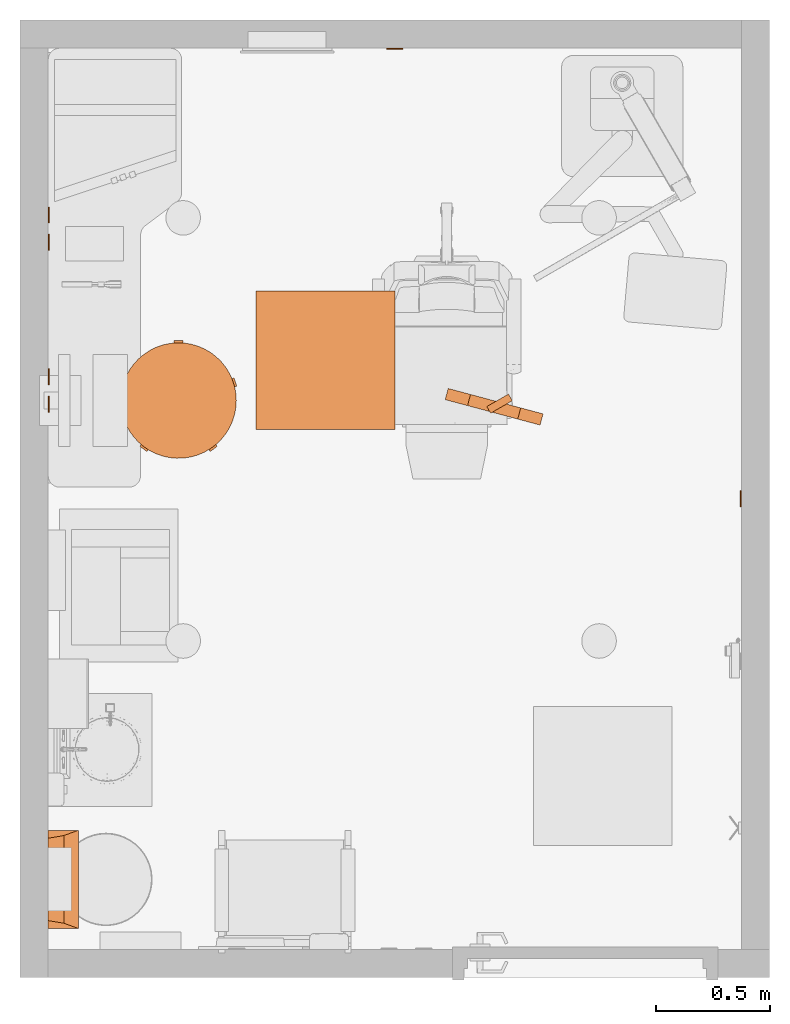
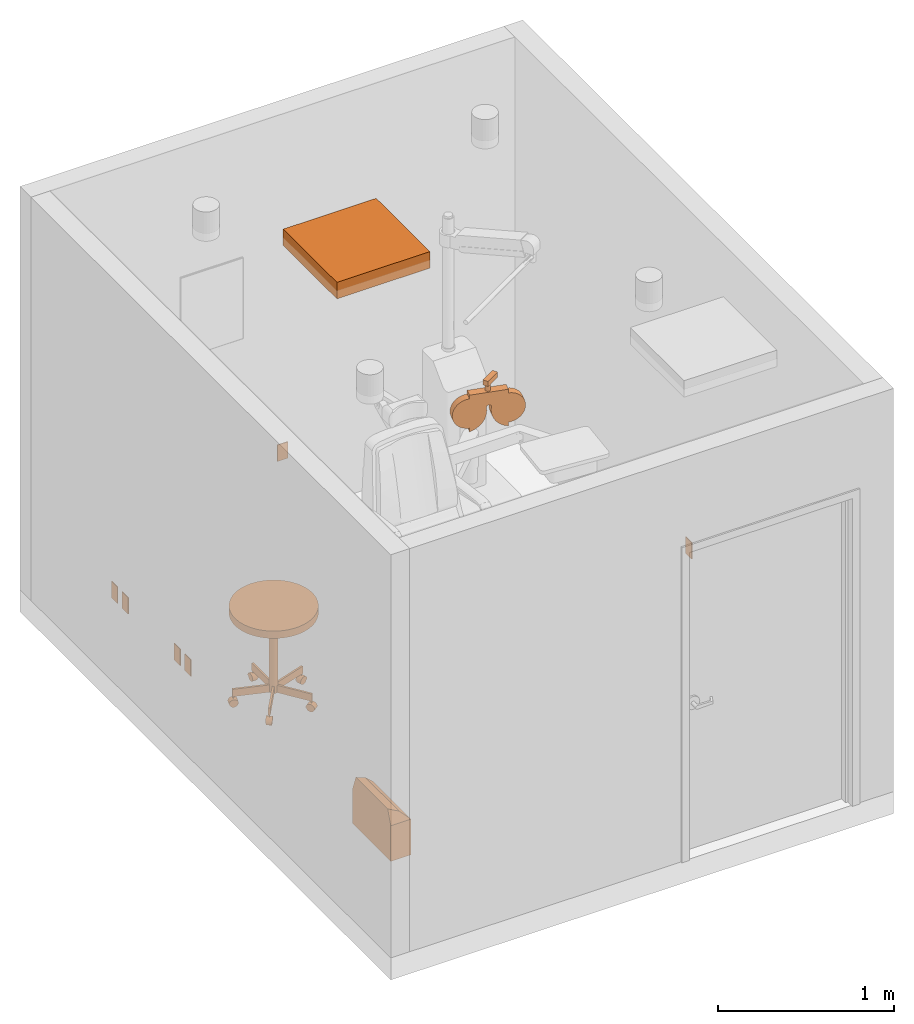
# One storey, part 6 of 11: 10 proxies.
"""IFC2X3 building model written with IfcOpenShell, lengths in feet."""

from ifc_helpers import new_model, entity, si_unit, converted_unit, derived_unit, direction, frame, frame_2d, origin, origin_2d_with_axis, place, context, subcontext, project, spatial, polyline, circle_curve, parameter, trimmed, segment, composite_curve, rectangle, circle, outline, extrude, faceted_brep, source, transform, mapped, material, material_list, type_object, type_shapes, element, save


model = new_model("IFC2X3")

# Units and contexts
model_context = context("Model", 3, precision=0.0001, world=origin(), true_north=direction((6.12303176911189e-17, 1.0)))
body_context = subcontext(model_context, "Body", "Model", "MODEL_VIEW")
ifc_project = project(units=[converted_unit("LENGTHUNIT", "FOOT", entity("IfcRatioMeasure", 0.3048), si_unit("LENGTHUNIT", "METRE"), dimensions=[1, 0, 0, 0, 0, 0, 0]), converted_unit("AREAUNIT", "SQUARE FOOT", entity("IfcRatioMeasure", 0.09290304), si_unit("AREAUNIT", "SQUARE_METRE"), dimensions=[2, 0, 0, 0, 0, 0, 0]), converted_unit("VOLUMEUNIT", "CUBIC FOOT", entity("IfcRatioMeasure", 0.028316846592), si_unit("VOLUMEUNIT", "CUBIC_METRE"), dimensions=[3, 0, 0, 0, 0, 0, 0]), converted_unit("PLANEANGLEUNIT", "DEGREE", entity("IfcRatioMeasure", 0.0174532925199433), si_unit("PLANEANGLEUNIT", "RADIAN"), dimensions=[0, 0, 0, 0, 0, 0, 0]), si_unit("MASSUNIT", "GRAM", prefix="KILO"), derived_unit("MASSDENSITYUNIT", [(si_unit("MASSUNIT", "GRAM", prefix="KILO"), 1), (si_unit("LENGTHUNIT", "METRE"), -3)]), si_unit("TIMEUNIT", "SECOND"), si_unit("FREQUENCYUNIT", "HERTZ"), si_unit("THERMODYNAMICTEMPERATUREUNIT", "DEGREE_CELSIUS"), derived_unit("THERMALTRANSMITTANCEUNIT", [(si_unit("MASSUNIT", "GRAM", prefix="KILO"), 1), (si_unit("THERMODYNAMICTEMPERATUREUNIT", "KELVIN"), -1), (si_unit("TIMEUNIT", "SECOND"), -3)]), derived_unit("VOLUMETRICFLOWRATEUNIT", [(si_unit("LENGTHUNIT", "METRE"), 3), (si_unit("TIMEUNIT", "SECOND"), -1)]), si_unit("ELECTRICCURRENTUNIT", "AMPERE"), si_unit("ELECTRICVOLTAGEUNIT", "VOLT"), si_unit("POWERUNIT", "WATT"), si_unit("FORCEUNIT", "NEWTON"), si_unit("ILLUMINANCEUNIT", "LUX"), si_unit("LUMINOUSFLUXUNIT", "LUMEN"), si_unit("LUMINOUSINTENSITYUNIT", "CANDELA"), derived_unit("USERDEFINED", [(si_unit("MASSUNIT", "GRAM", prefix="KILO"), -1), (si_unit("LENGTHUNIT", "METRE"), -2), (si_unit("TIMEUNIT", "SECOND"), 3), (si_unit("LUMINOUSFLUXUNIT", "LUMEN"), 1)]), derived_unit("LINEARVELOCITYUNIT", [(si_unit("LENGTHUNIT", "METRE"), 1), (si_unit("TIMEUNIT", "SECOND"), -1)]), si_unit("PRESSUREUNIT", "PASCAL"), derived_unit("USERDEFINED", [(si_unit("LENGTHUNIT", "METRE"), -2), (si_unit("MASSUNIT", "GRAM", prefix="KILO"), 1), (si_unit("TIMEUNIT", "SECOND"), -2)])], contexts=[model_context])

# Site, building, storey, space
site_placement = place(None, origin())
site = spatial("IfcSite", under=ifc_project, at=site_placement, Name="Default", CompositionType="ELEMENT")
building_placement = place(site_placement, origin())
building = spatial("IfcBuilding", under=site, at=building_placement, Name="EYE CLINIC:  OPTHALMOLOGY AND OPTOMETRY SERVICES (Ch. 233)", CompositionType="ELEMENT")
storey_placement = place(building_placement, origin())
storey = spatial("IfcBuildingStorey", under=building, at=storey_placement, Name="DATUM", CompositionType="ELEMENT", Elevation=0.0)
space_placement = place(storey_placement, origin())
space = spatial("IfcSpace", under=storey, at=space_placement, Name="(OPET2)", CompositionType="ELEMENT", InteriorOrExteriorSpace="INTERNAL")

# Proxies
building_element_proxy_type_1 = type_object("IfcBuildingElementProxyType", Name="24\" x 24\"", PredefinedType="NOTDEFINED")
shared_shape_1 = source(origin(), body_context, "Body", "SweptSolid", [
    extrude(rectangle(XDim=2.00000000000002, YDim=2.00000000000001, at=origin_2d_with_axis()), frame((0.0, 0.0, 8.0), z_axis=(0.0, 0.0, 1.0), x_axis=(0.0, 1.0, 0.0)), (0.0, 0.0, 1.0), 0.375),
])
type_shapes(building_element_proxy_type_1, [shared_shape_1])
proxy_1_placement = place(space_placement, frame((-31.8602308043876, 7.30762568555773, 1.0)))
element("IfcBuildingElementProxy", 1, at=proxy_1_placement, inside=space, type_object=building_element_proxy_type_1, Name="Supply Diffuser:24\" x 24\"", ObjectType="24\" x 24\"", context=body_context, shape_type="MappedRepresentation", body=[
    mapped(shared_shape_1, transform((0.0, 0.0, 0.0), scale=1.0)),
])
building_element_proxy_type_2 = type_object("IfcBuildingElementProxyType", Name="A5108 - Waste Disposal Unit, Sharps", PredefinedType="NOTDEFINED")
shared_shape_2 = source(origin(), body_context, "Body", "Brep", [
    faceted_brep([(1.41666666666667, 0.0, 0.0), (0.0, 0.0, 0.0), (0.0, 0.437500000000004, 0.0), (1.41666666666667, 0.437500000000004, 0.0), (1.41666666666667, 0.437500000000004, 0.810989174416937), (1.41666666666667, 0.00256679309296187, 0.810989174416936), (1.41666666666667, 0.0, 0.808422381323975), (0.0, 0.437500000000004, 0.810989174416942), (0.114290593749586, 0.437500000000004, 1.125), (1.30237607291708, 0.437500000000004, 1.125), (0.0, 0.0, 0.808422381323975), (0.0, 0.00256679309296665, 0.810989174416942), (1.34083118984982, 0.210923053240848, 1.01934543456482), (0.0758354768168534, 0.210923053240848, 1.01934543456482)], [[[0, 1, 2, 3]], [[0, 3, 4, 5, 6]], [[3, 2, 7, 8, 9, 4]], [[2, 1, 10, 11, 7]], [[1, 0, 6, 10]], [[10, 6, 5, 12, 13, 11]], [[12, 9, 8, 13]], [[5, 4, 9, 12]], [[8, 7, 11, 13]]]),
])
type_shapes(building_element_proxy_type_2, [shared_shape_2])
proxy_2_placement = place(storey_placement, frame((-35.4227308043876, -0.892098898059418, 1.625), z_axis=(0.0, 0.0, 1.0), x_axis=(0.0, 1.0, 0.0)))
element("IfcBuildingElementProxy", 2, at=proxy_2_placement, inside=storey, type_object=building_element_proxy_type_2, Name="A5108 - Waste Disposal Unit, Sharps:A5108 - Waste Disposal Unit, Sharps", ObjectType="A5108 - Waste Disposal Unit, Sharps", context=body_context, shape_type="MappedRepresentation", body=[
    mapped(shared_shape_2, transform((0.0, 0.0, 0.0), scale=1.0)),
])
ifc_material_1 = material(Name="Stool caster")
ifc_material_2 = material(Name="Stool metal")
ifc_material_3 = material(Name="Stool cushion")
ifc_material_list_1 = material_list([ifc_material_1, ifc_material_2, ifc_material_3])
ifc_material_list_2 = material_list([ifc_material_1, ifc_material_2, ifc_material_3])
building_element_proxy_type_3 = type_object("IfcBuildingElementProxyType", Name="F0340 - Stool, Self Adjusting", PredefinedType="NOTDEFINED", material=ifc_material_list_2)
shared_shape_3 = source(origin(), body_context, "Body", "SweptSolid", [
    extrude(circle(Radius=0.084518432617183, at=frame_2d((0.0, -1.38777878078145e-16), x_axis=(1.0, 0.0))), frame((0.717011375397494, 0.287734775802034, 0.0845184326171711), z_axis=(0.309016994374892, -0.951056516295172, 0.0), x_axis=(-0.951056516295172, -0.309016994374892, 0.0)), (0.0, 0.0, 1.0), 0.104166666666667),
    extrude(outline(composite_curve([segment(polyline([(-0.0925649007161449, 0.0), (0.0925649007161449, 0.0)]), True, "CONTINUOUS"), segment(trimmed(circle_curve(origin_2d_with_axis(), 0.0925649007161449), [parameter(2.03555499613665e-13)], [parameter(180.0)], True, "PARAMETER"), True, "CONTINUOUS")], self_intersect=False)), frame((0.752419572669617, 0.178759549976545, 0.0845184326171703), z_axis=(-0.309016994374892, 0.951056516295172, 0.0), x_axis=(-0.951056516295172, -0.309016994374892, 0.0)), (0.0, 0.0, 1.0), 0.125),
    extrude(circle(Radius=0.0115130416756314, at=frame_2d((7.9106571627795e-18, 1.14165428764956e-16), x_axis=(1.0, 0.0))), frame((0.73310678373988, 0.238198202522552, 0.177083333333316), z_axis=(0.0, 0.0, 1.0), x_axis=(0.309016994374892, -0.951056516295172, 0.0)), (0.0, 0.0, 1.0), 0.0442708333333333),
    extrude(rectangle(XDim=0.0416641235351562, YDim=0.7059128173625, at=frame_2d((1.38777878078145e-17, 0.0), x_axis=(1.0, 0.0))), frame((0.412570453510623, 0.134049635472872, 0.221354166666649), z_axis=(0.0, 0.0, 1.0), x_axis=(-0.309016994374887, 0.951056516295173, 0.0)), (0.0, 0.0, 1.0), 0.166666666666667),
    extrude(circle(Radius=0.084518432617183, at=frame_2d((0.0, -3.7470027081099e-16), x_axis=(1.0, 0.0))), frame((0.410948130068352, -0.654231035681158, 0.0845184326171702), z_axis=(0.809016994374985, 0.587785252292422, 0.0), x_axis=(-0.587785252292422, 0.809016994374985, 0.0)), (0.0, 0.0, 1.0), 0.104166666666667),
    extrude(outline(composite_curve([segment(polyline([(-0.0925649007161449, 0.0), (0.0925649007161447, 0.0)]), True, "CONTINUOUS"), segment(trimmed(circle_curve(origin_2d_with_axis(), 0.0925649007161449), [parameter(2.03555499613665e-13)], [parameter(180.0)], True, "PARAMETER"), True, "CONTINUOUS")], self_intersect=False)), frame((0.402520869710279, -0.660353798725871, 0.0845184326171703), z_axis=(0.809016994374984, 0.587785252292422, 0.0), x_axis=(-0.587785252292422, 0.809016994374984, 0.0)), (0.0, 0.0, 1.0), 0.125),
    extrude(circle(Radius=0.0115130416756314, at=origin_2d_with_axis()), frame((0.453082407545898, -0.623618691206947, 0.177083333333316), z_axis=(0.0, 0.0, 1.0), x_axis=(-0.809016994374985, -0.587785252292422, 0.0)), (0.0, 0.0, 1.0), 0.0442708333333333),
    extrude(rectangle(XDim=0.0416641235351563, YDim=0.705912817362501, at=frame_2d((0.0, -1.38777878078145e-16), x_axis=(1.0, 0.0))), frame((0.254980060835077, -0.350954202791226, 0.221354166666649), z_axis=(0.0, 0.0, 1.0), x_axis=(0.809016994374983, 0.587785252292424, 0.0)), (0.0, 0.0, 1.0), 0.166666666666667),
    extrude(circle(Radius=0.084518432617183, at=frame_2d((-3.2628636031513e-17, -1.38777878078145e-16), x_axis=(1.0, 0.0))), frame((-0.410948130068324, -0.654231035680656, 0.0845184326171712), z_axis=(-0.809016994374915, 0.587785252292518, 0.0), x_axis=(0.587785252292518, 0.809016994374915, 0.0)), (0.0, 0.0, 1.0), 0.104166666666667),
    extrude(outline(composite_curve([segment(trimmed(circle_curve(origin_2d_with_axis(), 0.0925649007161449), [parameter(180.0)], [parameter(360.0)], True, "PARAMETER"), True, "CONTINUOUS"), segment(polyline([(0.0925649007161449, 0.0), (-0.0925649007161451, 0.0)]), True, "CONTINUOUS")], self_intersect=False)), frame((-0.402520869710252, -0.66035379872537, 0.0845184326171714), z_axis=(-0.809016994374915, 0.587785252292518, 0.0), x_axis=(0.587785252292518, 0.809016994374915, 0.0)), (0.0, 0.0, 1.0), 0.125),
    extrude(circle(Radius=0.0115130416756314, at=frame_2d((-4.49094647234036e-17, -3.2628636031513e-17), x_axis=(1.0, 0.0))), frame((-0.453086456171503, -0.623615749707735, 0.177083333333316), z_axis=(0.0, 0.0, 1.0), x_axis=(-0.809016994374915, 0.587785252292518, 0.0)), (0.0, 0.0, 1.0), 0.0442708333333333),
    extrude(rectangle(XDim=0.0416641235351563, YDim=0.7059128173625, at=frame_2d((-4.16333634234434e-17, 5.55111512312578e-17), x_axis=(1.0, 0.0))), frame((-0.254984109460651, -0.350951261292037, 0.221354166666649), z_axis=(0.0, 0.0, 1.0), x_axis=(0.809016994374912, -0.587785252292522, 0.0)), (0.0, 0.0, 1.0), 0.166666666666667),
    extrude(circle(Radius=0.084518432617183, at=frame_2d((0.0, -1.38777878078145e-16), x_axis=(1.0, 0.0))), frame((-0.749200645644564, 0.188666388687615, 0.0845184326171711), z_axis=(0.309016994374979, 0.951056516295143, 0.0), x_axis=(0.951056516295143, -0.309016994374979, 0.0)), (0.0, 0.0, 1.0), 0.104166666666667),
    extrude(outline(composite_curve([segment(trimmed(circle_curve(origin_2d_with_axis(), 0.0925649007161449), [parameter(180.0)], [parameter(360.0)], True, "PARAMETER"), True, "CONTINUOUS"), segment(polyline([(0.0925649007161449, 0.0), (-0.0925649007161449, 0.0)]), True, "CONTINUOUS")], self_intersect=False)), frame((-0.752419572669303, 0.178759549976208, 0.0845184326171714), z_axis=(0.309016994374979, 0.951056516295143, 0.0), x_axis=(0.951056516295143, -0.309016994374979, 0.0)), (0.0, 0.0, 1.0), 0.125),
    extrude(circle(Radius=0.0115130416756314, at=frame_2d((7.91065716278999e-18, -1.14165428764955e-16), x_axis=(1.0, 0.0))), frame((-0.733105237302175, 0.238202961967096, 0.177083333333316), z_axis=(0.0, 0.0, 1.0), x_axis=(0.309016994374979, 0.951056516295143, 0.0)), (0.0, 0.0, 1.0), 0.0442708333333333),
    extrude(rectangle(XDim=0.0416641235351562, YDim=0.7059128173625, at=origin_2d_with_axis()), frame((-0.412568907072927, 0.134054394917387, 0.221354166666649), z_axis=(0.0, 0.0, 1.0), x_axis=(-0.309016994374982, -0.951056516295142, 0.0)), (0.0, 0.0, 1.0), 0.166666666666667),
    extrude(circle(Radius=0.084518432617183, at=frame_2d((-1.76415182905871e-31, -1.38777878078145e-16), x_axis=(1.0, 0.0))), frame((-0.0520833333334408, 0.770833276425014, 0.0845184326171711), z_axis=(1.0, 0.0, 0.0), x_axis=(0.0, -1.0, 0.0)), (0.0, 0.0, 1.0), 0.104166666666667),
    extrude(outline(composite_curve([segment(trimmed(circle_curve(origin_2d_with_axis(), 0.0925649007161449), [parameter(180.0)], [parameter(360.0)], True, "PARAMETER"), True, "CONTINUOUS"), segment(polyline([(0.0925649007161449, 0.0), (-0.0925649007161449, 0.0)]), True, "CONTINUOUS")], self_intersect=False)), frame((-0.0625000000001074, 0.770833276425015, 0.0845184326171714), z_axis=(1.0, 0.0, 0.0), x_axis=(0.0, -1.0, 0.0)), (0.0, 0.0, 1.0), 0.125),
    extrude(circle(Radius=0.0115130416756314, at=frame_2d((7.04731412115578e-19, 1.79171670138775e-32), x_axis=(1.0, 0.0))), frame((2.50218814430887e-06, 0.770833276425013, 0.177083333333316)), (0.0, 0.0, 1.0), 0.0442708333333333),
    extrude(rectangle(XDim=0.0416641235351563, YDim=0.7059128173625, at=frame_2d((3.46944695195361e-18, 5.55111512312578e-17), x_axis=(1.0, 0.0))), frame((2.50218813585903e-06, 0.433801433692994, 0.221354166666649), z_axis=(0.0, 0.0, 1.0), x_axis=(-1.0, 0.0, 0.0)), (0.0, 0.0, 1.0), 0.166666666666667),
    extrude(circle(Radius=0.0834863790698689, at=frame_2d((2.89333175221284e-18, -1.34875966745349e-16), x_axis=(1.0, 0.0))), frame((0.0, 0.0, 0.221354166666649)), (0.0, 0.0, 1.0), 1.77864583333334),
    extrude(circle(Radius=0.833333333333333, at=frame_2d((2.28760446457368e-17, -1.34628714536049e-15), x_axis=(1.0, 0.0))), frame((0.0, 0.0, 2.0)), (0.0, 0.0, 1.0), 0.166666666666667),
])
type_shapes(building_element_proxy_type_3, [shared_shape_3])
proxy_3_placement = place(space_placement, frame((-33.9795552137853, 6.7242923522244, 0.0)))
element("IfcBuildingElementProxy", 3, at=proxy_3_placement, inside=space, type_object=building_element_proxy_type_3, material=ifc_material_list_1, Name="F0340 - Stool, Self Adjusting:F0340 - Stool, Self Adjusting", ObjectType="F0340 - Stool, Self Adjusting", context=body_context, shape_type="MappedRepresentation", body=[
    mapped(shared_shape_3, transform((0.0, 0.0, 0.0), scale=1.0)),
])
building_element_proxy_type_4 = type_object("IfcBuildingElementProxyType", Name="M5599 - Phoropter", PredefinedType="NOTDEFINED")
shared_shape_4 = source(origin(), body_context, "Body", "SweptSolid", [
    extrude(rectangle(XDim=0.361077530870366, YDim=0.110392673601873, at=frame_2d((0.0, -2.4980018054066e-16), x_axis=(1.0, 0.0))), frame((1.21752463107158, 2.80100429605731, 5.67974558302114), z_axis=(0.0, 0.0, 1.0), x_axis=(-0.866025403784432, -0.500000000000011, 0.0)), (0.0, 0.0, 1.0), 0.114583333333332),
    extrude(circle(Radius=0.0520833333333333, at=origin_2d_with_axis()), frame((1.29572202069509, 2.84615158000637, 5.53391224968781), z_axis=(0.0, 0.0, 1.0), x_axis=(0.866025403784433, 0.50000000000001, 0.0)), (0.0, 0.0, 1.0), 0.145833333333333),
    extrude(outline(composite_curve([segment(polyline([(-0.398857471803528, -0.375), (-0.315524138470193, -0.375)]), True, "CONTINUOUS"), segment(trimmed(circle_curve(frame_2d((0.0178091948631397, -0.374999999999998), x_axis=(0.0, 1.0)), 0.333333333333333), [parameter(90.0000000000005)], [parameter(270.0)], True, "PARAMETER"), True, "CONTINUOUS"), segment(polyline([(0.351142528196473, -0.375000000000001), (0.434475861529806, -0.374999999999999)]), True, "CONTINUOUS"), segment(trimmed(circle_curve(frame_2d((0.0123016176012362, -0.475634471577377), x_axis=(0.0, 1.0)), 0.434002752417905), [parameter(283.407497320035)], [parameter(11.0977578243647)], True, "PARAMETER"), True, "CONTINUOUS"), segment(trimmed(circle_curve(frame_2d((-0.060273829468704, 0.0), x_axis=(0.0, -1.0)), 0.0509411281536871), [parameter(192.427743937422)], [parameter(347.572256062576)], True, "PARAMETER"), False, "CONTINUOUS"), segment(trimmed(circle_curve(frame_2d((0.0123016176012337, 0.475634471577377), x_axis=(0.0, -1.0)), 0.434002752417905), [parameter(348.902242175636)], [parameter(76.5925026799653)], True, "PARAMETER"), True, "CONTINUOUS"), segment(polyline([(0.434475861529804, 0.375000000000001), (0.351142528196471, 0.375000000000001)]), True, "CONTINUOUS"), segment(trimmed(circle_curve(frame_2d((0.0178091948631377, 0.374999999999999), x_axis=(0.0, -1.0)), 0.333333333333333), [parameter(90.0000000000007)], [parameter(270.0)], True, "PARAMETER"), True, "CONTINUOUS"), segment(polyline([(-0.315524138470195, 0.375), (-0.39885747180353, 0.374999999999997)]), True, "CONTINUOUS"), segment(polyline([(-0.39885747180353, 0.374999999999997), (-0.398857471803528, -0.375)]), True, "CONTINUOUS")], self_intersect=False)), frame((1.27415376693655, 2.76565776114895, 5.13505477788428), z_axis=(0.258819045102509, 0.965925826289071, 0.0), x_axis=(0.0, 0.0, -1.0)), (0.0, 0.0, 1.0), 0.166666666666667),
])
type_shapes(building_element_proxy_type_4, [shared_shape_4])
proxy_4_placement = place(space_placement, frame((-28.1310641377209, 9.48049538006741, 0.0), z_axis=(0.0, 0.0, 1.0), x_axis=(-1.0, 0.0, 0.0)))
element("IfcBuildingElementProxy", 4, at=proxy_4_placement, inside=space, type_object=building_element_proxy_type_4, Name="M5599 - Phoropter:M5599 - Phoropter", ObjectType="M5599 - Phoropter", context=body_context, shape_type="MappedRepresentation", body=[
    mapped(shared_shape_4, transform((0.0, 0.0, 0.0), scale=1.0)),
])
building_element_proxy_type_5 = type_object("IfcBuildingElementProxyType", Name="Duplex", PredefinedType="NOTDEFINED")
shared_shape_5 = source(origin(), body_context, "Body", "SweptSolid", [
    extrude(rectangle(XDim=0.0156249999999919, YDim=0.229166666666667, at=origin_2d_with_axis()), frame((0.0, 0.210937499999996, 0.0), z_axis=(0.0, 0.0, 1.0), x_axis=(0.0, 1.0, 0.0)), (0.0, 0.0, 1.0), 0.37500000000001),
])
type_shapes(building_element_proxy_type_5, [shared_shape_5])
for number, where, z_axis, x_axis, name in (
    (5, (-30.8602308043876, 12.0107506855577, 1.3125), (0.0, 0.0, 1.0), (-1.0, 0.0, 0.0), "Outlet, Duplex, Wall:Duplex"),
    (6, (-25.6571058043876, 5.30762568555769, 1.3125), (0.0, 0.0, 1.0), (0.0, 1.0, 0.0), "Outlet, Duplex, Wall:Duplex"),
    (7, (-36.0633558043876, 9.00554235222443, 1.3125), (0.0, 0.0, 1.0), (0.0, -1.0, 0.0), "Outlet, Duplex, Wall:Duplex"),
    (8, (-36.0633558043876, 7.06804235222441, 1.3125), (0.0, 0.0, 1.0), (0.0, -1.0, 0.0), "Outlet, Duplex, Wall:Duplex"),
):
    element("IfcBuildingElementProxy", number, at=place(space_placement, frame(where, z_axis=z_axis, x_axis=x_axis)), inside=space, type_object=building_element_proxy_type_5, Name=name, ObjectType="Duplex", context=body_context, shape_type="MappedRepresentation", body=[
        mapped(shared_shape_5, transform((0.0, 0.0, 0.0), scale=1.0)),
    ])
building_element_proxy_type_6 = type_object("IfcBuildingElementProxyType", Name="Telephone/Data", PredefinedType="NOTDEFINED")
shared_shape_6 = source(origin(), body_context, "Body", "SweptSolid", [
    extrude(rectangle(XDim=0.0156249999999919, YDim=0.229166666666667, at=origin_2d_with_axis()), frame((0.0, 0.210937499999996, 0.0), z_axis=(0.0, 0.0, 1.0), x_axis=(0.0, 1.0, 0.0)), (0.0, 0.0, 1.0), 0.375),
])
type_shapes(building_element_proxy_type_6, [shared_shape_6])
proxy_5_placement = place(space_placement, frame((-36.0633558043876, 6.67220901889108, 1.3125), z_axis=(0.0, 0.0, 1.0), x_axis=(0.0, -1.0, 0.0)))
element("IfcBuildingElementProxy", 9, at=proxy_5_placement, inside=space, type_object=building_element_proxy_type_6, Name="Outlet, Communications:Telephone/Data", ObjectType="Telephone/Data", context=body_context, shape_type="MappedRepresentation", body=[
    mapped(shared_shape_6, transform((0.0, 0.0, 0.0), scale=1.0)),
])
building_element_proxy_type_7 = type_object("IfcBuildingElementProxyType", Name="Telephone/Data", PredefinedType="NOTDEFINED")
shared_shape_7 = source(origin(), body_context, "Body", "SweptSolid", [
    extrude(rectangle(XDim=0.229166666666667, YDim=0.0156249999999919, at=origin_2d_with_axis()), frame((0.0, -0.210937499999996, 0.0), z_axis=(0.0, 0.0, 1.0), x_axis=(-1.0, 0.0, 0.0)), (0.0, 0.0, 1.0), 0.375),
])
type_shapes(building_element_proxy_type_7, [shared_shape_7])
proxy_6_placement = place(space_placement, frame((-36.0633558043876, 9.40137568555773, 1.31249999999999), z_axis=(0.0, 0.0, 1.0), x_axis=(0.0, 1.0, 0.0)))
element("IfcBuildingElementProxy", 10, at=proxy_6_placement, inside=space, type_object=building_element_proxy_type_7, Name="Outlet, Communications:Telephone/Data", ObjectType="Telephone/Data", context=body_context, shape_type="MappedRepresentation", body=[
    mapped(shared_shape_7, transform((0.0, 0.0, 0.0), scale=1.0)),
])

save(model, "model.ifc")
